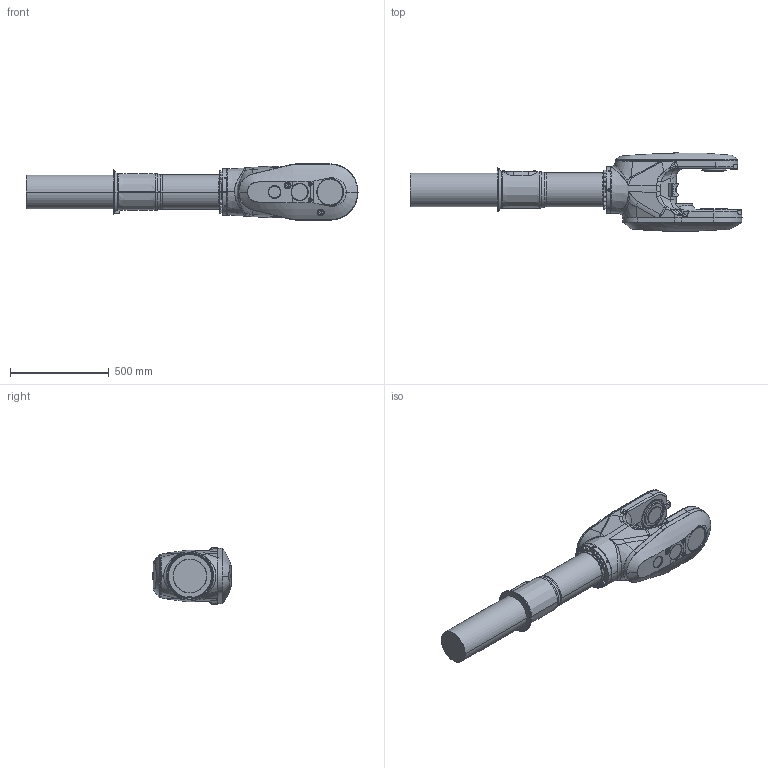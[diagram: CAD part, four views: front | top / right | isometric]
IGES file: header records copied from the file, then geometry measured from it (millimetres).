
Start section: SolidWorks IGES file using analytic representation for surfaces
Global section: file name: C:\DATA\SAP_DOC\LW\IRB 6730\IRB6730-MH3_240kg-290_OC_01_SW_J\Export\IRB6730-MH3_240kg-290_OC_01_IGES_J\IRB6730-MH3_240kg-290_OC_00_LINK04_CAD.igs; native system: SolidWorks 2024; preprocessor: SolidWorks 2024; author: SEJOVAS3; date: 260526.113532; units: millimetre
Bounding box: 1677.5 x 396.47 x 284 mm (x, y, z)
Surface area: 1490932.6 mm2 (no closed solid volume)
Topology: 0 solids, 0 shells, 736 faces, 13488 edges, 13463 vertices
Faces by surface type: bspline 435, revolution 301
